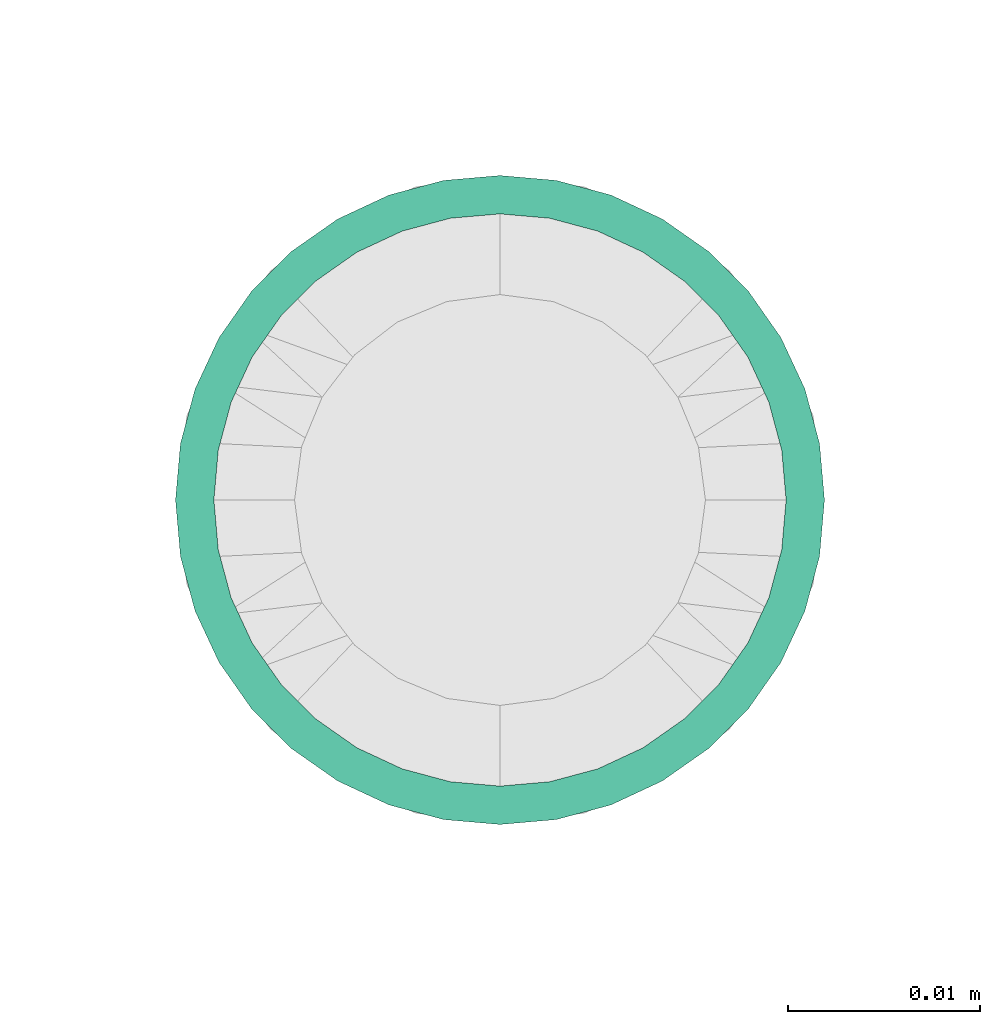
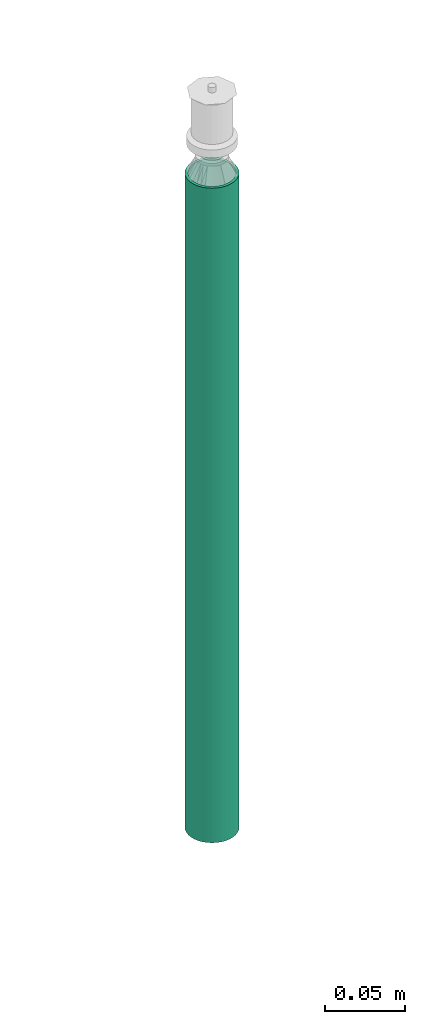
# One storey, part 36 of 44: 1 flow segment.
"""IFC2X3 building model written with IfcOpenShell, lengths in millimetres."""

from ifc_helpers import new_model, entity, si_unit, converted_unit, derived_unit, direction, frame, place, context, subcontext, project, spatial, faceted_brep, type_object, element, save


model = new_model("IFC2X3")

# Units and contexts
model_context = context("Model", 3, precision=0.01, world=frame((0.0, 4.29681676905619e-09, 0.0)), true_north=direction((4.01073788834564e-13, 1.0)))
plan_context = context("Plan", 3, precision=0.01, world=frame((0.0, 4.29681676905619e-09, 0.0)), true_north=direction((4.01073788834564e-13, 1.0)))
body_context = subcontext(model_context, "Body", "Model", "MODEL_VIEW")
ifc_project = project(units=[converted_unit("PLANEANGLEUNIT", "DEGREE", entity("IfcPositiveLengthMeasure", 0.0174532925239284), si_unit("PLANEANGLEUNIT", "RADIAN"), dimensions=[0, 0, 0, 0, 0, 0, 0]), si_unit("AREAUNIT", "SQUARE_METRE"), si_unit("LENGTHUNIT", "METRE", prefix="MILLI"), si_unit("MASSUNIT", "GRAM", prefix="KILO"), si_unit("POWERUNIT", "WATT"), si_unit("PRESSUREUNIT", "PASCAL"), si_unit("FORCEUNIT", "NEWTON", prefix="KILO"), si_unit("ELECTRICVOLTAGEUNIT", "VOLT"), si_unit("ELECTRICCURRENTUNIT", "AMPERE"), si_unit("THERMODYNAMICTEMPERATUREUNIT", "DEGREE_CELSIUS"), si_unit("TIMEUNIT", "SECOND"), si_unit("VOLUMEUNIT", "CUBIC_METRE"), derived_unit("LINEARVELOCITYUNIT", [(si_unit("LENGTHUNIT", "METRE"), 1), (si_unit("TIMEUNIT", "SECOND"), -1)]), derived_unit("VOLUMETRICFLOWRATEUNIT", [(si_unit("VOLUMEUNIT", "CUBIC_METRE"), 1), (si_unit("TIMEUNIT", "SECOND"), -1)]), derived_unit("THERMALTRANSMITTANCEUNIT", [(si_unit("POWERUNIT", "WATT"), 1), (si_unit("THERMODYNAMICTEMPERATUREUNIT", "KELVIN"), -1), (si_unit("AREAUNIT", "SQUARE_METRE"), -1)]), derived_unit("SOUNDPRESSUREUNIT", [(si_unit("PRESSUREUNIT", "PASCAL"), 1)])], contexts=[model_context, plan_context])

# Site, building, storey
site_placement = place(None, frame((0.0, -4.29681676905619e-09, 0.0), z_axis=(0.0, 0.0, 1.0), x_axis=(1.0, 0.0, 0.0)))
site = spatial("IfcSite", under=ifc_project, at=site_placement, CompositionType="ELEMENT")
building_placement = place(site_placement, frame((0.0, 4.29681676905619e-09, 0.0), z_axis=(0.0, 0.0, 1.0), x_axis=(1.0, 0.0, 0.0)))
building = spatial("IfcBuilding", under=site, at=building_placement, Name="mc-building", CompositionType="ELEMENT")
storey_placement = place(building_placement, frame((0.0, 0.0, 207370.0), z_axis=(0.0, 0.0, 1.0), x_axis=(1.0, 0.0, 0.0)))
storey = spatial("IfcBuildingStorey", under=building, at=storey_placement, Name="Nivå E", CompositionType="ELEMENT", Elevation=207370.0)

# Flow segment
pipe_segment_type = type_object("IfcPipeSegmentType", Name="Stålrør normaltykke", PredefinedType="RIGIDSEGMENT")
flow_segment_placement = place(storey_placement, frame((527500.0, 447269.83177, 3027.60555000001), z_axis=(1.0, 0.0, 0.0), x_axis=(0.0, 0.0, -1.0)))
element("IfcFlowSegment", 1, at=flow_segment_placement, inside=storey, type_object=pipe_segment_type, Name="Stålrør normaltykke", context=body_context, shape_type="Brep", body=[
    faceted_brep([(497.605550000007, 14.9, 0.0), (497.605550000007, 14.6736355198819, -2.58735784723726), (0.0, 14.6736355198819, -2.58735784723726), (0.0, 14.9, 0.0), (497.605550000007, 14.00142004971, -5.09610013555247), (0.0, 14.00142004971, -5.09610013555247), (497.605550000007, 12.9037785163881, -7.45000000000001), (0.0, 12.9037785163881, -7.45000000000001), (497.605550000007, 11.4140622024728, -9.57753538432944), (0.0, 11.4140622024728, -9.57753538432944), (497.605550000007, 9.57753538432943, -11.4140622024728), (0.0, 9.57753538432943, -11.4140622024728), (497.605550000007, 7.45, -12.9037785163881), (0.0, 7.45, -12.9037785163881), (497.605550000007, 5.09610013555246, -14.00142004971), (0.0, 5.09610013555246, -14.00142004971), (497.605550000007, 2.58735784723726, -14.6736355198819), (0.0, 2.58735784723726, -14.6736355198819), (497.605550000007, -2.73708559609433e-15, -14.9), (0.0, -2.73708559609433e-15, -14.9), (497.605550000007, -2.58735784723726, -14.6736355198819), (0.0, -2.58735784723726, -14.6736355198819), (497.605550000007, -5.09610013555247, -14.00142004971), (0.0, -5.09610013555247, -14.00142004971), (497.605550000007, -7.45000000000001, -12.9037785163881), (0.0, -7.45000000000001, -12.9037785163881), (497.605550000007, -9.57753538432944, -11.4140622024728), (0.0, -9.57753538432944, -11.4140622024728), (497.605550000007, -11.4140622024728, -9.57753538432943), (0.0, -11.4140622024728, -9.57753538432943), (497.605550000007, -12.9037785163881, -7.44999999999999), (0.0, -12.9037785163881, -7.44999999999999), (497.605550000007, -14.00142004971, -5.09610013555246), (0.0, -14.00142004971, -5.09610013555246), (497.605550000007, -14.6736355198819, -2.58735784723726), (0.0, -14.6736355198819, -2.58735784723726), (497.605550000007, -14.9, 1.82472373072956e-15), (0.0, -14.9, 1.82472373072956e-15), (497.605550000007, -14.6736355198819, 2.58735784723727), (0.0, -14.6736355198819, 2.58735784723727), (497.605550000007, -14.00142004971, 5.09610013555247), (0.0, -14.00142004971, 5.09610013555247), (497.605550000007, -12.9037785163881, 7.45), (0.0, -12.9037785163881, 7.45), (497.605550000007, -11.4140622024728, 9.57753538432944), (0.0, -11.4140622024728, 9.57753538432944), (497.605550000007, -9.57753538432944, 11.4140622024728), (0.0, -9.57753538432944, 11.4140622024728), (497.605550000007, -7.45, 12.9037785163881), (0.0, -7.45, 12.9037785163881), (497.605550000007, -5.09610013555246, 14.00142004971), (0.0, -5.09610013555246, 14.00142004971), (497.605550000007, -2.58735784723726, 14.6736355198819), (0.0, -2.58735784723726, 14.6736355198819), (497.605550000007, 9.12361865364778e-16, 14.9), (0.0, 9.12361865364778e-16, 14.9), (497.605550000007, 2.58735784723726, 14.6736355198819), (0.0, 2.58735784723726, 14.6736355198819), (497.605550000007, 5.09610013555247, 14.00142004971), (0.0, 5.09610013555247, 14.00142004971), (497.605550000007, 7.45, 12.9037785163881), (0.0, 7.45, 12.9037785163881), (497.605550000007, 9.57753538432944, 11.4140622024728), (0.0, 9.57753538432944, 11.4140622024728), (497.605550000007, 11.4140622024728, 9.57753538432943), (0.0, 11.4140622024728, 9.57753538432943), (497.605550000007, 12.9037785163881, 7.45), (0.0, 12.9037785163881, 7.45), (497.605550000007, 14.00142004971, 5.09610013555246), (0.0, 14.00142004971, 5.09610013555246), (497.605550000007, 14.6736355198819, 2.58735784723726), (0.0, 14.6736355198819, 2.58735784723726), (497.605550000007, 16.6432510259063, -2.93465420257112), (497.605550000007, 16.9, 0.0), (0.0, 16.9, 0.0), (0.0, 16.6432510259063, -2.93465420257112), (497.605550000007, 16.6432510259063, 2.93465420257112), (0.0, 16.6432510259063, 2.93465420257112), (497.605550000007, 15.8808052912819, 5.7801404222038), (0.0, 15.8808052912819, 5.7801404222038), (497.605550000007, 14.635829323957, 8.45), (0.0, 14.635829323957, 8.45), (497.605550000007, 12.9461510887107, 10.8631106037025), (0.0, 12.9461510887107, 10.8631106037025), (497.605550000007, 10.8631106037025, 12.9461510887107), (0.0, 10.8631106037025, 12.9461510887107), (497.605550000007, 8.45, 14.635829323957), (0.0, 8.45, 14.635829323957), (497.605550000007, 5.7801404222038, 15.8808052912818), (0.0, 5.7801404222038, 15.8808052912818), (497.605550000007, 2.93465420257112, 16.6432510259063), (0.0, 2.93465420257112, 16.6432510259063), (497.605550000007, 1.03482654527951e-15, 16.9), (0.0, 1.03482654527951e-15, 16.9), (497.605550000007, -2.93465420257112, 16.6432510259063), (0.0, -2.93465420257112, 16.6432510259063), (497.605550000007, -5.7801404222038, 15.8808052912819), (0.0, -5.7801404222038, 15.8808052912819), (497.605550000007, -8.45, 14.635829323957), (0.0, -8.45, 14.635829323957), (497.605550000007, -10.8631106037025, 12.9461510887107), (0.0, -10.8631106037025, 12.9461510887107), (497.605550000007, -12.9461510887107, 10.8631106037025), (0.0, -12.9461510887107, 10.8631106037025), (497.605550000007, -14.635829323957, 8.45), (0.0, -14.635829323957, 8.45), (497.605550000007, -15.8808052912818, 5.7801404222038), (0.0, -15.8808052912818, 5.7801404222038), (497.605550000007, -16.6432510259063, 2.93465420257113), (0.0, -16.6432510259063, 2.93465420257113), (497.605550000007, -16.9, 2.06965309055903e-15), (0.0, -16.9, 2.06965309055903e-15), (497.605550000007, -16.6432510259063, -2.93465420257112), (0.0, -16.6432510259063, -2.93465420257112), (497.605550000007, -15.8808052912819, -5.7801404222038), (0.0, -15.8808052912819, -5.7801404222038), (497.605550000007, -14.635829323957, -8.44999999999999), (0.0, -14.635829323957, -8.44999999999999), (497.605550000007, -12.9461510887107, -10.8631106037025), (0.0, -12.9461510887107, -10.8631106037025), (497.605550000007, -10.8631106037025, -12.9461510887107), (0.0, -10.8631106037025, -12.9461510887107), (497.605550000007, -8.45000000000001, -14.635829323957), (0.0, -8.45000000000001, -14.635829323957), (497.605550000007, -5.78014042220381, -15.8808052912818), (0.0, -5.78014042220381, -15.8808052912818), (497.605550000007, -2.93465420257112, -16.6432510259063), (0.0, -2.93465420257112, -16.6432510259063), (497.605550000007, -3.10447963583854e-15, -16.9), (0.0, -3.10447963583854e-15, -16.9), (497.605550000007, 2.93465420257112, -16.6432510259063), (0.0, 2.93465420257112, -16.6432510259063), (497.605550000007, 5.78014042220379, -15.8808052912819), (0.0, 5.78014042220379, -15.8808052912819), (497.605550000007, 8.45, -14.635829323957), (0.0, 8.45, -14.635829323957), (497.605550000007, 10.8631106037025, -12.9461510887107), (0.0, 10.8631106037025, -12.9461510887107), (497.605550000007, 12.9461510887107, -10.8631106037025), (0.0, 12.9461510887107, -10.8631106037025), (497.605550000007, 14.635829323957, -8.45000000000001), (0.0, 14.635829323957, -8.45000000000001), (497.605550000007, 15.8808052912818, -5.78014042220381), (0.0, 15.8808052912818, -5.78014042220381)], [[[0, 1, 2, 3]], [[1, 4, 5, 2]], [[4, 6, 7, 5]], [[6, 8, 9, 7]], [[8, 10, 11, 9]], [[10, 12, 13, 11]], [[12, 14, 15, 13]], [[14, 16, 17, 15]], [[16, 18, 19, 17]], [[18, 20, 21, 19]], [[20, 22, 23, 21]], [[22, 24, 25, 23]], [[24, 26, 27, 25]], [[26, 28, 29, 27]], [[28, 30, 31, 29]], [[30, 32, 33, 31]], [[32, 34, 35, 33]], [[34, 36, 37, 35]], [[36, 38, 39, 37]], [[38, 40, 41, 39]], [[40, 42, 43, 41]], [[42, 44, 45, 43]], [[44, 46, 47, 45]], [[46, 48, 49, 47]], [[48, 50, 51, 49]], [[50, 52, 53, 51]], [[52, 54, 55, 53]], [[54, 56, 57, 55]], [[56, 58, 59, 57]], [[58, 60, 61, 59]], [[60, 62, 63, 61]], [[62, 64, 65, 63]], [[64, 66, 67, 65]], [[66, 68, 69, 67]], [[68, 70, 71, 69]], [[70, 0, 3, 71]], [[72, 73, 74, 75]], [[73, 76, 77, 74]], [[76, 78, 79, 77]], [[78, 80, 81, 79]], [[80, 82, 83, 81]], [[82, 84, 85, 83]], [[84, 86, 87, 85]], [[86, 88, 89, 87]], [[88, 90, 91, 89]], [[90, 92, 93, 91]], [[92, 94, 95, 93]], [[94, 96, 97, 95]], [[96, 98, 99, 97]], [[98, 100, 101, 99]], [[100, 102, 103, 101]], [[102, 104, 105, 103]], [[104, 106, 107, 105]], [[106, 108, 109, 107]], [[108, 110, 111, 109]], [[110, 112, 113, 111]], [[112, 114, 115, 113]], [[114, 116, 117, 115]], [[116, 118, 119, 117]], [[118, 120, 121, 119]], [[120, 122, 123, 121]], [[122, 124, 125, 123]], [[124, 126, 127, 125]], [[126, 128, 129, 127]], [[128, 130, 131, 129]], [[130, 132, 133, 131]], [[132, 134, 135, 133]], [[134, 136, 137, 135]], [[136, 138, 139, 137]], [[138, 140, 141, 139]], [[140, 142, 143, 141]], [[142, 72, 75, 143]], [[75, 74, 77, 79, 81, 83, 85, 87, 89, 91, 93, 95, 97, 99, 101, 103, 105, 107, 109, 111, 113, 115, 117, 119, 121, 123, 125, 127, 129, 131, 133, 135, 137, 139, 141, 143], [3, 2, 5, 7, 9, 11, 13, 15, 17, 19, 21, 23, 25, 27, 29, 31, 33, 35, 37, 39, 41, 43, 45, 47, 49, 51, 53, 55, 57, 59, 61, 63, 65, 67, 69, 71]], [[142, 140, 138, 136, 134, 132, 130, 128, 126, 124, 122, 120, 118, 116, 114, 112, 110, 108, 106, 104, 102, 100, 98, 96, 94, 92, 90, 88, 86, 84, 82, 80, 78, 76, 73, 72], [70, 68, 66, 64, 62, 60, 58, 56, 54, 52, 50, 48, 46, 44, 42, 40, 38, 36, 34, 32, 30, 28, 26, 24, 22, 20, 18, 16, 14, 12, 10, 8, 6, 4, 1, 0]]], orient=[[False], [False], [False], [False], [False], [False], [False], [False], [False], [False], [False], [False], [False], [False], [False], [False], [False], [False], [False], [False], [False], [False], [False], [False], [False], [False], [False], [False], [False], [False], [False], [False], [False], [False], [False], [False], [False], [False], [False], [False], [False], [False], [False], [False], [False], [False], [False], [False], [False], [False], [False], [False], [False], [False], [False], [False], [False], [False], [False], [False], [False], [False], [False], [False], [False], [False], [False], [False], [False], [False], [False], [False], [False, False], [False, False]]),
])

save(model, "model.ifc")
